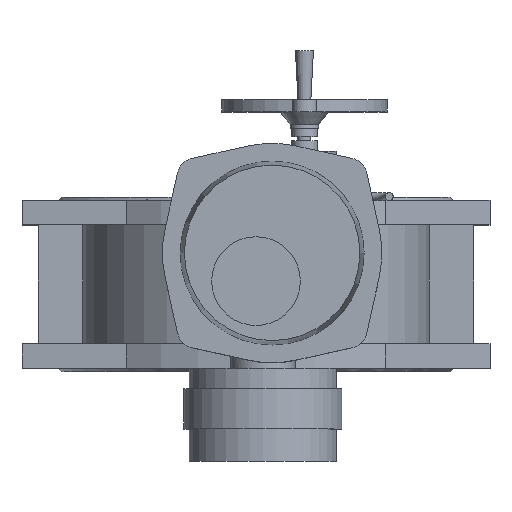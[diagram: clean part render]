
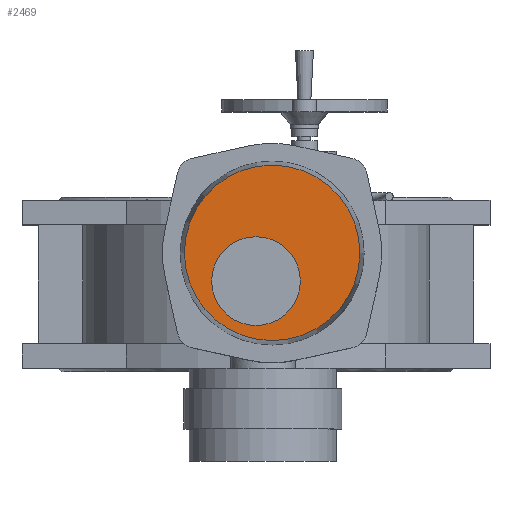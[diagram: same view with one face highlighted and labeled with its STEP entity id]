
A CAD part, top view. The second image highlights one B-rep face of the part: STEP entity #2469.
In plain terms, the highlighted planar face has unit normal (0, 0, 1).
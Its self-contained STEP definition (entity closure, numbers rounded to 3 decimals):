
#2469=ADVANCED_FACE('',(#4935,#4937),#4939,.T.);
#4935=FACE_BOUND('',#4936,.T.);
#4936=EDGE_LOOP('',(#6915));
#4937=FACE_BOUND('',#4938,.T.);
#4938=EDGE_LOOP('',(#6916));
#4939=PLANE('',#4940);
#4940=AXIS2_PLACEMENT_3D('',#4941,#4942,#4943);
#4941=CARTESIAN_POINT('',(20.,38.,687.));
#4942=DIRECTION('',(0.,0.,1.));
#4943=DIRECTION('',(-1.,0.,0.));
#6915=ORIENTED_EDGE('',*,*,#7885,.T.);
#6916=ORIENTED_EDGE('',*,*,#7898,.F.);
#7885=EDGE_CURVE('',#9339,#9339,#9340,.T.);
#7898=EDGE_CURVE('',#9365,#9365,#9366,.T.);
#9339=VERTEX_POINT('',#15226);
#9340=CIRCLE('',#15227,108.707);
#9365=VERTEX_POINT('',#15682);
#9366=CIRCLE('',#15683,55.);
#15226=CARTESIAN_POINT('',(-88.707,38.,687.));
#15227=AXIS2_PLACEMENT_3D('',#15228,#15229,#15230);
#15228=CARTESIAN_POINT('',(20.,38.,687.));
#15229=DIRECTION('',(0.,0.,1.));
#15230=DIRECTION('',(-1.,0.,0.));
#15682=CARTESIAN_POINT('',(-55.,3.,687.));
#15683=AXIS2_PLACEMENT_3D('',#15684,#15685,#15686);
#15684=CARTESIAN_POINT('',(0.,3.,687.));
#15685=DIRECTION('',(0.,0.,1.));
#15686=DIRECTION('',(-1.,0.,0.));
